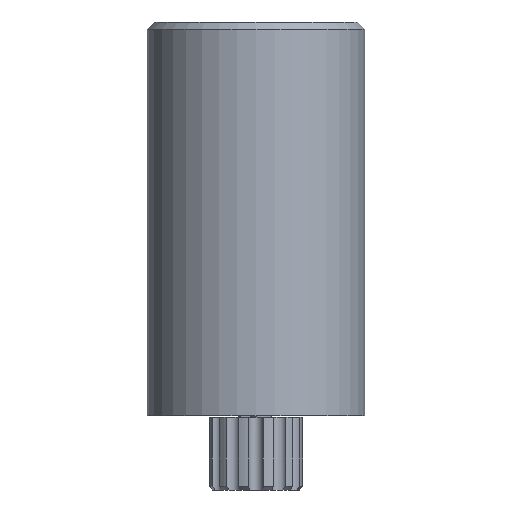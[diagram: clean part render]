
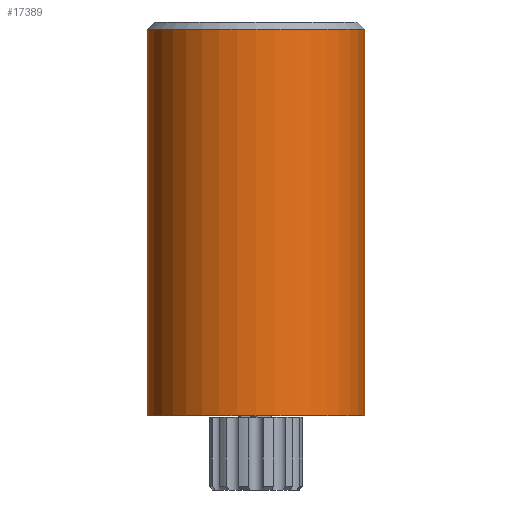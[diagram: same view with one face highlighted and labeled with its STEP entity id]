
A CAD part, left-side view. The second image highlights one B-rep face of the part: STEP entity #17389.
In plain terms, the highlighted cylindrical face has radius 30 mm (diameter 60 mm), a full revolution.
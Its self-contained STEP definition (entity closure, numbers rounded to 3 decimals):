
#1497=LINE('',#31637,#2514);
#2514=VECTOR('',#22525,30.);
#3164=CYLINDRICAL_SURFACE('',#18950,30.);
#3914=FACE_OUTER_BOUND('',#4946,.T.);
#4946=EDGE_LOOP('',(#14019,#14020,#14021,#14022));
#5854=CIRCLE('',#18754,30.);
#5946=CIRCLE('',#18947,30.);
#7416=VERTEX_POINT('',#31035);
#7545=VERTEX_POINT('',#31630);
#9605=EDGE_CURVE('',#7416,#7416,#5854,.T.);
#9838=EDGE_CURVE('',#7545,#7545,#5946,.T.);
#9841=EDGE_CURVE('',#7416,#7545,#1497,.T.);
#14019=ORIENTED_EDGE('',*,*,#9605,.F.);
#14020=ORIENTED_EDGE('',*,*,#9841,.T.);
#14021=ORIENTED_EDGE('',*,*,#9838,.F.);
#14022=ORIENTED_EDGE('',*,*,#9841,.F.);
#17389=ADVANCED_FACE('',(#3914),#3164,.T.);
#18754=AXIS2_PLACEMENT_3D('',#31036,#22055,#22056);
#18947=AXIS2_PLACEMENT_3D('',#31631,#22516,#22517);
#18950=AXIS2_PLACEMENT_3D('',#31636,#22523,#22524);
#22055=DIRECTION('center_axis',(0.,0.,
-1.));
#22056=DIRECTION('ref_axis',(0.94,0.342,0.));
#22516=DIRECTION('center_axis',(0.,0.,
1.));
#22517=DIRECTION('ref_axis',(0.94,0.342,0.));
#22523=DIRECTION('center_axis',(0.,0.,
1.));
#22524=DIRECTION('ref_axis',(0.94,0.342,0.));
#22525=DIRECTION('',(0.,0.,1.));
#31035=CARTESIAN_POINT('',(-28.191,-10.261,0.));
#31036=CARTESIAN_POINT('Origin',(0.,0.,0.));
#31630=CARTESIAN_POINT('',(-28.191,-10.261,106.5));
#31631=CARTESIAN_POINT('Origin',(0.,0.,106.5));
#31636=CARTESIAN_POINT('Origin',(0.,0.,53.286));
#31637=CARTESIAN_POINT('',(-28.191,-10.261,53.286));
